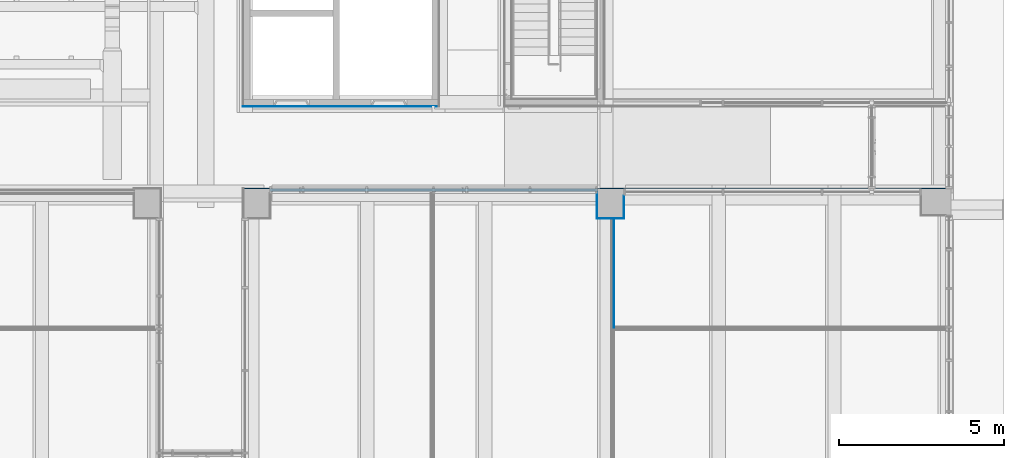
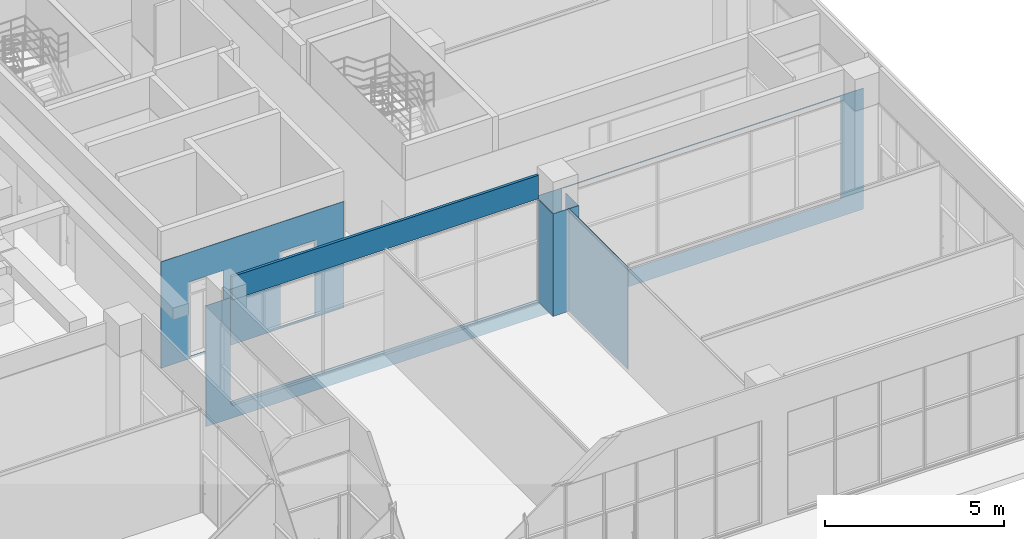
# One storey, part 38 of 100: 8 walls, 6 openings.
"""IFC2X3 building model written with IfcOpenShell, lengths in millimetres."""

from ifc_helpers import new_model, entity, si_unit, converted_unit, derived_unit, direction, frame, frame_2d, origin, place, context, subcontext, project, spatial, rectangle, extrude, material, layer, layer_set, layer_usage, type_object, element, save


model = new_model("IFC2X3")

# Units and contexts
model_context = context("Model", 3, precision=0.01, world=origin(), true_north=direction((6.123031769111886e-17, 1.0)))
body_context = subcontext(model_context, "Body", "Model", "MODEL_VIEW")
ifc_project = project(units=[si_unit("LENGTHUNIT", "METRE", prefix="MILLI"), si_unit("AREAUNIT", "SQUARE_METRE"), si_unit("VOLUMEUNIT", "CUBIC_METRE"), converted_unit("PLANEANGLEUNIT", "DEGREE", entity("IfcRatioMeasure", 0.017453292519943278), si_unit("PLANEANGLEUNIT", "RADIAN"), dimensions=[0, 0, 0, 0, 0, 0, 0]), si_unit("MASSUNIT", "GRAM", prefix="KILO"), derived_unit("MASSDENSITYUNIT", [(si_unit("MASSUNIT", "GRAM", prefix="KILO"), 1), (si_unit("LENGTHUNIT", "METRE"), -3)]), derived_unit("MOMENTOFINERTIAUNIT", [(si_unit("LENGTHUNIT", "METRE"), 4)]), si_unit("TIMEUNIT", "SECOND"), si_unit("FREQUENCYUNIT", "HERTZ"), si_unit("THERMODYNAMICTEMPERATUREUNIT", "DEGREE_CELSIUS"), derived_unit("THERMALTRANSMITTANCEUNIT", [(si_unit("MASSUNIT", "GRAM", prefix="KILO"), 1), (si_unit("THERMODYNAMICTEMPERATUREUNIT", "KELVIN"), -1), (si_unit("TIMEUNIT", "SECOND"), -3)]), derived_unit("VOLUMETRICFLOWRATEUNIT", [(si_unit("LENGTHUNIT", "METRE"), 3), (si_unit("TIMEUNIT", "SECOND"), -1)]), derived_unit("MASSFLOWRATEUNIT", [(si_unit("MASSUNIT", "GRAM", prefix="KILO"), 1), (si_unit("TIMEUNIT", "SECOND"), -1)]), derived_unit("ROTATIONALFREQUENCYUNIT", [(si_unit("TIMEUNIT", "SECOND"), -1)]), si_unit("ELECTRICCURRENTUNIT", "AMPERE"), si_unit("ELECTRICVOLTAGEUNIT", "VOLT"), si_unit("POWERUNIT", "WATT"), si_unit("FORCEUNIT", "NEWTON", prefix="KILO"), si_unit("ILLUMINANCEUNIT", "LUX"), si_unit("LUMINOUSFLUXUNIT", "LUMEN"), si_unit("LUMINOUSINTENSITYUNIT", "CANDELA"), derived_unit("USERDEFINED", [(si_unit("MASSUNIT", "GRAM", prefix="KILO"), -1), (si_unit("LENGTHUNIT", "METRE"), -2), (si_unit("TIMEUNIT", "SECOND"), 3), (si_unit("LUMINOUSFLUXUNIT", "LUMEN"), 1)]), derived_unit("SOUNDPOWERUNIT", [(si_unit("MASSUNIT", "GRAM", prefix="KILO"), 1), (si_unit("LENGTHUNIT", "METRE"), 2), (si_unit("TIMEUNIT", "SECOND"), -3)]), derived_unit("SOUNDPRESSUREUNIT", [(si_unit("MASSUNIT", "GRAM", prefix="KILO"), 1), (si_unit("LENGTHUNIT", "METRE"), -1), (si_unit("TIMEUNIT", "SECOND"), -2)]), derived_unit("LINEARVELOCITYUNIT", [(si_unit("LENGTHUNIT", "METRE"), 1), (si_unit("TIMEUNIT", "SECOND"), -1)]), si_unit("PRESSUREUNIT", "PASCAL"), derived_unit("USERDEFINED", [(si_unit("LENGTHUNIT", "METRE"), -2), (si_unit("MASSUNIT", "GRAM", prefix="KILO"), 1), (si_unit("TIMEUNIT", "SECOND"), -2)]), derived_unit("LINEARFORCEUNIT", [(si_unit("MASSUNIT", "GRAM", prefix="KILO"), 1), (si_unit("LENGTHUNIT", "METRE"), 1), (si_unit("TIMEUNIT", "SECOND"), -2), (si_unit("LENGTHUNIT", "METRE"), -1)]), derived_unit("PLANARFORCEUNIT", [(si_unit("MASSUNIT", "GRAM", prefix="KILO"), 1), (si_unit("LENGTHUNIT", "METRE"), 1), (si_unit("TIMEUNIT", "SECOND"), -2), (si_unit("LENGTHUNIT", "METRE"), -2)])], contexts=[model_context])

# Site, building, storey
site_placement = place(None, frame((-14167.972527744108, -657.2125860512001, 0.0)))
site = spatial("IfcSite", under=ifc_project, at=site_placement, Name="Default", CompositionType="ELEMENT")
building_placement = place(site_placement, origin())
building = spatial("IfcBuilding", under=site, at=building_placement, Name="Sample Building", CompositionType="ELEMENT")
storey_placement = place(building_placement, origin())
storey = spatial("IfcBuildingStorey", under=building, at=storey_placement, Name="지상 1층", CompositionType="ELEMENT", Elevation=0.0)

# Wall, openings
ifc_material_1 = material(Name="KBIMS-시멘트 벽돌")
ifc_layer_1 = layer(ifc_material_1, 90.0)
ifc_layer_set_1 = layer_set([ifc_layer_1], Name="기본 벽:WA211-시멘트벽돌(일반) 벽 (0.5B) 90mm")
ifc_layer_usage_1 = layer_usage(ifc_layer_set_1, "AXIS2", "NEGATIVE", 45.0)
wall_type_1 = type_object("IfcWallType", Name="기본 벽:WA211-시멘트벽돌(일반) 벽 (0.5B) 90mm", PredefinedType="STANDARD", material=ifc_layer_set_1)
wall_1_placement = place(storey_placement, frame((30867.972491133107, 13012.212586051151, 0.0)))
wall_1 = element("IfcWallStandardCase", 1, at=wall_1_placement, inside=storey, type_object=wall_type_1, material=ifc_layer_usage_1, Name="기본 벽:WA211-시멘트벽돌(일반) 벽 (0.5B) 90mm", ObjectType="기본 벽:WA211-시멘트벽돌(일반) 벽 (0.5B) 90mm", context=body_context, shape_type="SweptSolid", body=[
    extrude(rectangle(XDim=9900.000000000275, YDim=89.99999999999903, at=frame_2d((4950.000000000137, 1.0835776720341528e-12), x_axis=(-1.0, 0.0))), origin(), (0.0, 0.0, 1.0), 4399.999999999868),
])
opening_1_placement = place(wall_1_placement, origin())
element("IfcOpeningElement", 2, at=opening_1_placement, cuts=wall_1, Name="기본 벽:WA211-시멘트벽돌(일반) 벽 (0.5B) 90mm", ObjectType="Opening", context=body_context, shape_type="SweptSolid", body=[
    extrude(rectangle(XDim=3520.000000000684, YDim=9900.000000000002, at=frame_2d((-1.1368683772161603e-13, 0.0), x_axis=(1.0, 0.0))), frame((4950.0, -197.39999999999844, 1840.0), z_axis=(0.0, 1.0, 0.0), x_axis=(0.0, 0.0, 1.0)), (0.0, 0.0, 1.0), 394.79999999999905),
])
opening_2_placement = place(wall_1_placement, origin())
element("IfcOpeningElement", 3, at=opening_2_placement, cuts=wall_1, Name="기본 벽:WA211-시멘트벽돌(일반) 벽 (0.5B) 90mm", ObjectType="Opening", context=body_context, shape_type="SweptSolid", body=[
    extrude(rectangle(XDim=3520.000000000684, YDim=8999.999999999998, at=frame_2d((0.0, 0.0), x_axis=(0.0, 1.0))), frame((15200.0, -197.39999999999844, 1840.0), z_axis=(0.0, 1.0, 0.0), x_axis=(-1.0, 0.0, 0.0)), (0.0, 0.0, 1.0), 394.79999999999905),
])

ifc_material_2 = material(Name="WA611-수성페인트 (내부) 벽 (3회)")
ifc_layer_2 = layer(ifc_material_2, 1.0)
ifc_material_3 = material(Name="WA551-시멘트모르타르 (내부) 벽 18mm")
ifc_layer_3 = layer(ifc_material_3, 16.0)
ifc_material_4 = material(Name="WA555-콘크리트면정리 벽 (내부)")
ifc_layer_4 = layer(ifc_material_4, 1.0)
ifc_layer_set_2 = layer_set([ifc_layer_2, ifc_layer_3, ifc_layer_4], Name="기본 벽:A1-32-06A-콘크리트면정리, 시멘트모르타르(미장용), 수성페인트(내부) (18mm)")
ifc_layer_usage_2 = layer_usage(ifc_layer_set_2, "AXIS2", "NEGATIVE", 9.000000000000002)
wall_type_2 = type_object("IfcWallType", Name="기본 벽:A1-32-06A-콘크리트면정리, 시멘트모르타르(미장용), 수성페인트(내부) (18mm)", PredefinedType="STANDARD", material=ifc_layer_set_2)
wall_2_placement = place(storey_placement, frame((30067.972463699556, 13066.194878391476, -500.0)))
wall_2 = element("IfcWallStandardCase", 4, at=wall_2_placement, inside=storey, type_object=wall_type_2, material=ifc_layer_usage_2, Name="기본 벽:A1-32-06A-콘크리트면정리, 시멘트모르타르(미장용), 수성페인트(내부) (18mm)", ObjectType="기본 벽:A1-32-06A-콘크리트면정리, 시멘트모르타르(미장용), 수성페인트(내부) (18mm)", context=body_context, shape_type="SweptSolid", body=[
    extrude(rectangle(XDim=21237.49136523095, YDim=18.000000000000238, at=frame_2d((10618.745682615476, 4.0234482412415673e-13), x_axis=(-1.0, 0.0))), origin(), (0.0, 0.0, 1.0), 4130.000000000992),
])
opening_3_placement = place(wall_2_placement, origin())
element("IfcOpeningElement", 5, at=opening_3_placement, cuts=wall_2, Name="기본 벽:A1-32-06A-콘크리트면정리, 시멘트모르타르(미장용), 수성페인트(내부) (18mm)", ObjectType="Opening", context=body_context, shape_type="SweptSolid", body=[
    extrude(rectangle(XDim=3520.000000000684, YDim=8999.999999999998, at=frame_2d((0.0, 0.0), x_axis=(0.0, 1.0))), frame((16000.0, -161.39999999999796, 2340.0), z_axis=(0.0, 1.0, 0.0), x_axis=(-1.0, 0.0, 0.0)), (0.0, 0.0, 1.0), 322.80000000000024),
])
opening_4_placement = place(wall_2_placement, origin())
element("IfcOpeningElement", 6, at=opening_4_placement, cuts=wall_2, Name="기본 벽:A1-32-06A-콘크리트면정리, 시멘트모르타르(미장용), 수성페인트(내부) (18mm)", ObjectType="Opening", context=body_context, shape_type="SweptSolid", body=[
    extrude(rectangle(XDim=3520.000000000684, YDim=9900.000000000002, at=frame_2d((-1.1368683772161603e-13, 0.0), x_axis=(1.0, 0.0))), frame((5750.000027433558, -161.39999999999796, 2340.0), z_axis=(0.0, 1.0, 0.0), x_axis=(0.0, 0.0, 1.0)), (0.0, 0.0, 1.0), 322.80000000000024),
])

ifc_layer_usage_3 = layer_usage(ifc_layer_set_2, "AXIS2", "NEGATIVE", 9.000000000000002)
wall_3_placement = place(storey_placement, frame((35967.97249113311, 15544.285530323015, 0.0), z_axis=(0.0, 0.0, 1.0), x_axis=(-1.0, 0.0, 0.0)))
wall_3 = element("IfcWallStandardCase", 7, at=wall_3_placement, inside=storey, type_object=wall_type_2, material=ifc_layer_usage_3, Name="기본 벽:A1-32-06A-콘크리트면정리, 시멘트모르타르(미장용), 수성페인트(내부) (18mm)", ObjectType="기본 벽:A1-32-06A-콘크리트면정리, 시멘트모르타르(미장용), 수성페인트(내부) (18mm)", context=body_context, shape_type="SweptSolid", body=[
    extrude(rectangle(XDim=5919.846676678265, YDim=18.00000000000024, at=frame_2d((2959.9233383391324, 2.4868995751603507e-14), x_axis=(-1.0, 0.0))), origin(), (0.0, 0.0, 1.0), 3630.0000000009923),
])
opening_5_placement = place(wall_3_placement, origin())
element("IfcOpeningElement", 8, at=opening_5_placement, cuts=wall_3, Name="기본 벽:A1-32-06A-콘크리트면정리, 시멘트모르타르(미장용), 수성페인트(내부) (18mm)", ObjectType="Opening", context=body_context, shape_type="SweptSolid", body=[
    extrude(rectangle(XDim=2549.9999999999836, YDim=1100.0000000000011, at=frame_2d((0.0, -2.2737367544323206e-13), x_axis=(0.0, 1.0))), frame((4450.92322536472, -1733.0174167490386, 1355.0), z_axis=(0.0, 1.0, 0.0), x_axis=(-1.0, 0.0, 0.0)), (0.0, 0.0, 1.0), 3048.0),
])
opening_6_placement = place(wall_3_placement, origin())
element("IfcOpeningElement", 9, at=opening_6_placement, cuts=wall_3, Name="기본 벽:A1-32-06A-콘크리트면정리, 시멘트모르타르(미장용), 수성페인트(내부) (18mm)", ObjectType="Opening", context=body_context, shape_type="SweptSolid", body=[
    extrude(rectangle(XDim=2549.9999999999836, YDim=1100.0000000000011, at=frame_2d((0.0, -2.2737367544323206e-13), x_axis=(0.0, 1.0))), frame((1499.9999097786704, -1733.0174167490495, 1355.0), z_axis=(0.0, 1.0, 0.0), x_axis=(-1.0, 0.0, 0.0)), (0.0, 0.0, 1.0), 3048.0),
])

# Walls
ifc_layer_usage_4 = layer_usage(ifc_layer_set_2, "AXIS2", "POSITIVE", -9.000000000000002)
wall_4_placement = place(storey_placement, frame((40758.97249113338, 12949.21258605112, 80.0), z_axis=(0.0, 0.0, 1.0), x_axis=(0.0, -1.0, 0.0)))
element("IfcWallStandardCase", 10, at=wall_4_placement, inside=storey, type_object=wall_type_2, material=ifc_layer_usage_4, Name="기본 벽:A1-32-06A-콘크리트면정리, 시멘트모르타르(미장용), 수성페인트(내부) (18mm)", ObjectType="기본 벽:A1-32-06A-콘크리트면정리, 시멘트모르타르(미장용), 수성페인트(내부) (18mm)", context=body_context, shape_type="SweptSolid", body=[
    extrude(rectangle(XDim=809.0176948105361, YDim=17.999999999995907, at=frame_2d((404.50884740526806, 0.0), x_axis=(-1.0, 0.0))), origin(), (0.0, 0.0, 1.0), 3500.0000000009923),
])
ifc_layer_usage_5 = layer_usage(ifc_layer_set_2, "AXIS2", "POSITIVE", -9.000000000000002)
wall_5_placement = place(storey_placement, frame((40767.97249113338, 12149.194891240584, 80.0)))
element("IfcWallStandardCase", 11, at=wall_5_placement, inside=storey, type_object=wall_type_2, material=ifc_layer_usage_5, Name="기본 벽:A1-32-06A-콘크리트면정리, 시멘트모르타르(미장용), 수성페인트(내부) (18mm)", ObjectType="기본 벽:A1-32-06A-콘크리트면정리, 시멘트모르타르(미장용), 수성페인트(내부) (18mm)", context=body_context, shape_type="SweptSolid", body=[
    extrude(rectangle(XDim=499.999999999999, YDim=18.00000000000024, at=frame_2d((249.9999999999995, 2.7000623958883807e-13), x_axis=(-1.0, 0.0))), origin(), (0.0, 0.0, 1.0), 3500.0000000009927),
])
ifc_layer_usage_6 = layer_usage(ifc_layer_set_2, "AXIS2", "POSITIVE", -9.000000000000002)
wall_6_placement = place(storey_placement, frame((41276.97249113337, 8857.177619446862, 80.0), z_axis=(0.0, 0.0, 1.0), x_axis=(0.0, 1.0, 0.0)))
element("IfcWallStandardCase", 12, at=wall_6_placement, inside=storey, type_object=wall_type_2, material=ifc_layer_usage_6, Name="기본 벽:A1-32-06A-콘크리트면정리, 시멘트모르타르(미장용), 수성페인트(내부) (18mm)", ObjectType="기본 벽:A1-32-06A-콘크리트면정리, 시멘트모르타르(미장용), 수성페인트(내부) (18mm)", context=body_context, shape_type="SweptSolid", body=[
    extrude(rectangle(XDim=3300.0349975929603, YDim=17.999999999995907, at=frame_2d((1650.0174987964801, 1.1546319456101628e-14), x_axis=(-1.0, 0.0))), origin(), (0.0, 0.0, 1.0), 3500.0000000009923),
])
ifc_layer_usage_7 = layer_usage(ifc_layer_set_2, "AXIS2", "POSITIVE", -9.000000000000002)
wall_7_placement = place(storey_placement, frame((41285.972491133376, 12148.212617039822, 80.0)))
element("IfcWallStandardCase", 13, at=wall_7_placement, inside=storey, type_object=wall_type_2, material=ifc_layer_usage_7, Name="기본 벽:A1-32-06A-콘크리트면정리, 시멘트모르타르(미장용), 수성페인트(내부) (18mm)", ObjectType="기본 벽:A1-32-06A-콘크리트면정리, 시멘트모르타르(미장용), 수성페인트(내부) (18mm)", context=body_context, shape_type="SweptSolid", body=[
    extrude(rectangle(XDim=300.0000000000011, YDim=18.000000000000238, at=frame_2d((150.00000000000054, 0.0), x_axis=(-1.0, 0.0))), origin(), (0.0, 0.0, 1.0), 3500.0000000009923),
])
ifc_layer_usage_8 = layer_usage(ifc_layer_set_2, "AXIS2", "POSITIVE", -9.000000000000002)
wall_8_placement = place(storey_placement, frame((41576.972491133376, 12157.212617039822, 80.0), z_axis=(0.0, 0.0, 1.0), x_axis=(0.0, 1.0, 0.0)))
element("IfcWallStandardCase", 14, at=wall_8_placement, inside=storey, type_object=wall_type_2, material=ifc_layer_usage_8, Name="기본 벽:A1-32-06A-콘크리트면정리, 시멘트모르타르(미장용), 수성페인트(내부) (18mm)", ObjectType="기본 벽:A1-32-06A-콘크리트면정리, 시멘트모르타르(미장용), 수성페인트(내부) (18mm)", context=body_context, shape_type="SweptSolid", body=[
    extrude(rectangle(XDim=690.965004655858, YDim=17.999999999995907, at=frame_2d((345.482502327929, 0.0), x_axis=(-1.0, 0.0))), origin(), (0.0, 0.0, 1.0), 3500.0000000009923),
])

save(model, "model.ifc")
